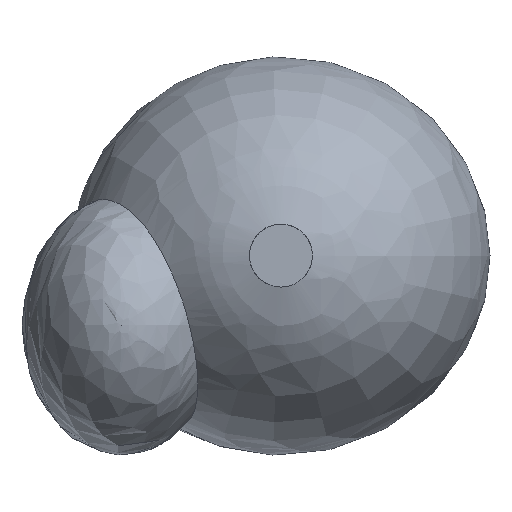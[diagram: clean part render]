
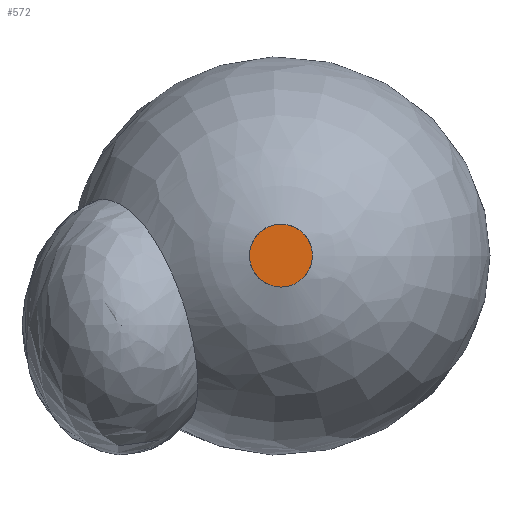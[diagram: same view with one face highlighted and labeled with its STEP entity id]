
A CAD part, top view. The second image highlights one B-rep face of the part: STEP entity #572.
In plain terms, the highlighted planar face has unit normal (0, 0, 1).
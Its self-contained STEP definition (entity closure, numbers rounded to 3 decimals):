
#502 = VERTEX_POINT('',#503);
#503 = CARTESIAN_POINT('',(80.175,-10.75,63.425));
#509 = EDGE_CURVE('',#502,#502,#510,.T.);
#510 = CIRCLE('',#511,1.7);
#511 = AXIS2_PLACEMENT_3D('',#512,#513,#514);
#512 = CARTESIAN_POINT('',(78.475,-10.75,63.425));
#513 = DIRECTION('',(0.,0.,1.));
#514 = DIRECTION('',(1.,0.,0.));
#572 = ADVANCED_FACE('',(#573),#576,.T.);
#573 = FACE_BOUND('',#574,.F.);
#574 = EDGE_LOOP('',(#575));
#575 = ORIENTED_EDGE('',*,*,#509,.F.);
#576 = PLANE('',#577);
#577 = AXIS2_PLACEMENT_3D('',#578,#579,#580);
#578 = CARTESIAN_POINT('',(78.475,-10.75,63.425));
#579 = DIRECTION('',(0.,0.,1.));
#580 = DIRECTION('',(1.,0.,0.));
